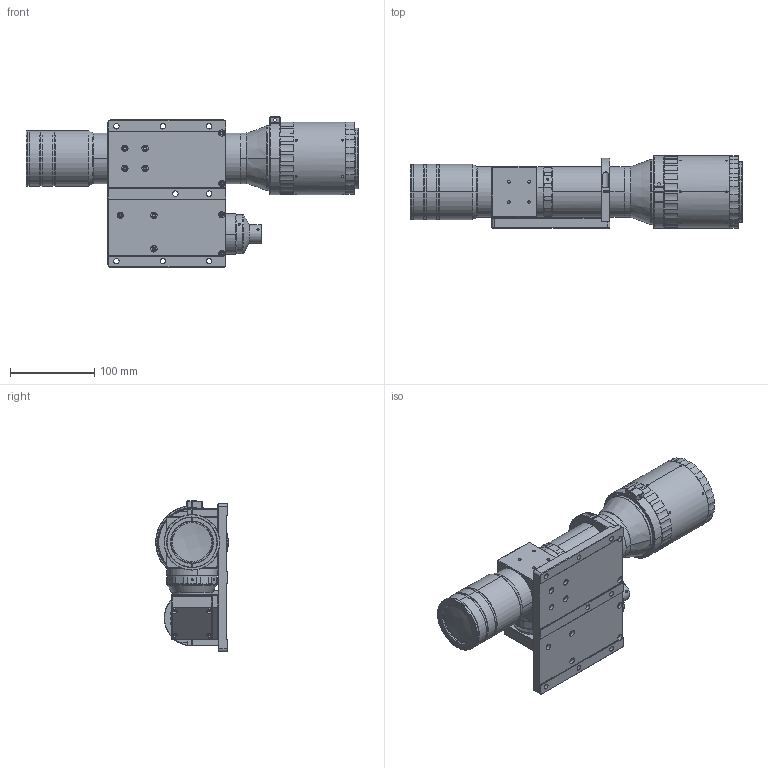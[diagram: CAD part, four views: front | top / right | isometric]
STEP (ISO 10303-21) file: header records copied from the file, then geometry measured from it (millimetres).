
FILE_DESCRIPTION (( 'STEP AP203' ), '1' );
FILE_NAME ('DTCA150M-22.4C-G-M72-19.5-AL(8).STEP', '2024-09-12T10:21:29', ( '' ), ( '' ), 'SwSTEP 2.0', 'SolidWorks 2017', '' );
FILE_SCHEMA (( 'CONFIG_CONTROL_DESIGN' ));
Length unit declared in the file: millimetre
Products named in the file (1): DTCA150M-22.4C-G-M72-19.5-AL(8)
Bounding box: 393.97 x 86 x 178.99 mm (x, y, z)
Volume: 2108165.3 mm3; surface area: 222895 mm2
Topology: 1 solids, 6 shells, 1401 faces, 3464 edges, 2131 vertices
Faces by surface type: cylinder 521, cone 440, plane 415, bspline 17, torus 8
Entity records: 44953 total; most frequent: CARTESIAN_POINT 11865, DIRECTION 7040, ORIENTED_EDGE 6884, EDGE_CURVE 3442, AXIS2_PLACEMENT_3D 2840, VERTEX_POINT 2131, EDGE_LOOP 1573, CIRCLE 1455
